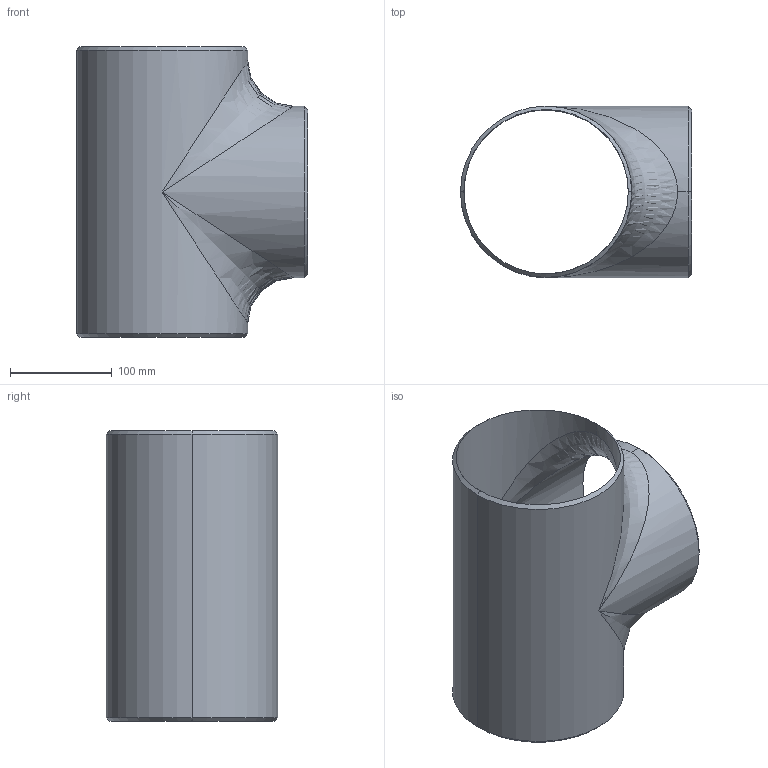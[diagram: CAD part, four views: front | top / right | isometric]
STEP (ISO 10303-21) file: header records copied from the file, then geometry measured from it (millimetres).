
FILE_DESCRIPTION (( 'STEP AP203' ), '1' );
FILE_NAME ('3D_R266_6x10S_173445250.STEP', '2024-08-23T11:17:29', ( '' ), ( '' ), 'SwSTEP 2.0', 'SolidWorks 2024', '' );
FILE_SCHEMA (( 'CONFIG_CONTROL_DESIGN' ));
Length unit declared in the file: millimetre
Products named in the file (1): 3D_R266_6x10S_173445250
Bounding box: 227.05 x 168.3 x 285.8 mm (x, y, z)
Volume: 551893.3 mm3; surface area: 331939.2 mm2
Topology: 1 solids, 1 shells, 21 faces, 58 edges, 30 vertices
Faces by surface type: cylinder 8, cone 6, bspline 4, plane 3
Entity records: 1459 total; most frequent: CARTESIAN_POINT 938, ORIENTED_EDGE 100, DIRECTION 88, EDGE_CURVE 50, AXIS2_PLACEMENT_3D 36, VERTEX_POINT 30, EDGE_LOOP 24, FACE_OUTER_BOUND 21
